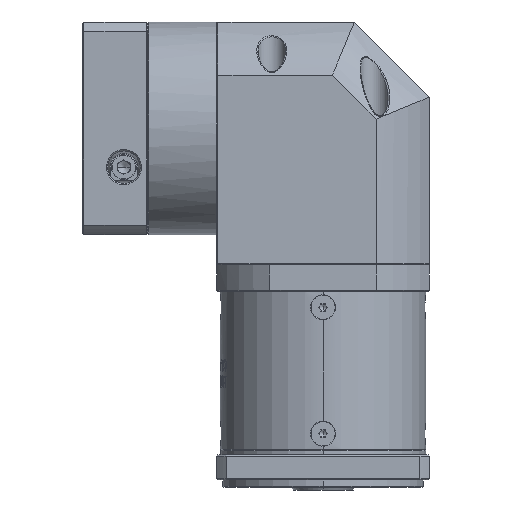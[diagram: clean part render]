
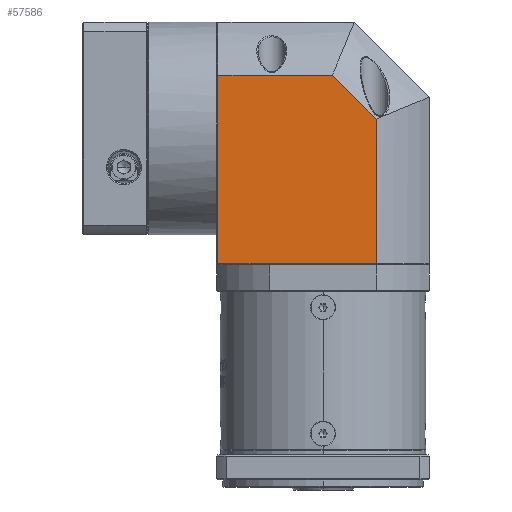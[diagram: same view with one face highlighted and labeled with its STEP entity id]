
A CAD part, left-side view. The second image highlights one B-rep face of the part: STEP entity #57586.
In plain terms, the highlighted planar face has unit normal (-1, 0, 0).
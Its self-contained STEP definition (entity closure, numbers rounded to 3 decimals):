
#1010 = ORIENTED_EDGE ( 'NONE', *, *, #21388, .T. ) ;
#3011 = DIRECTION ( 'NONE',  ( 0., -1., 0. ) ) ;
#3718 = PLANE ( 'NONE',  #119751 ) ;
#10248 = VECTOR ( 'NONE', #117422, 1000. ) ;
#10700 = VERTEX_POINT ( 'NONE', #96113 ) ;
#11187 = VERTEX_POINT ( 'NONE', #30959 ) ;
#11461 = CARTESIAN_POINT ( 'NONE',  ( -85.49, 74.778, 33.285 ) ) ;
#18128 = ORIENTED_EDGE ( 'NONE', *, *, #62317, .F. ) ;
#21388 = EDGE_CURVE ( 'NONE', #96062, #11187, #95706, .T. ) ;
#22497 = CARTESIAN_POINT ( 'NONE',  ( -85.49, 74.778, -41.928 ) ) ;
#24585 = VERTEX_POINT ( 'NONE', #11461 ) ;
#25268 = VECTOR ( 'NONE', #110694, 1000. ) ;
#30580 = VERTEX_POINT ( 'NONE', #105622 ) ;
#30959 = CARTESIAN_POINT ( 'NONE',  ( -85.49, 11.565, -41.928 ) ) ;
#33554 = CARTESIAN_POINT ( 'NONE',  ( -85.49, 75.278, 33.285 ) ) ;
#35067 = CARTESIAN_POINT ( 'NONE',  ( -85.49, 29.095, 33.285 ) ) ;
#38963 = ORIENTED_EDGE ( 'NONE', *, *, #66249, .F. ) ;
#42537 = DIRECTION ( 'NONE',  ( 0., 0., -1. ) ) ;
#46254 = LINE ( 'NONE', #33554, #70711 ) ;
#54048 = CARTESIAN_POINT ( 'NONE',  ( -85.49, 75.278, -41.928 ) ) ;
#54524 = VECTOR ( 'NONE', #61422, 1000. ) ;
#57586 = ADVANCED_FACE ( 'NONE', ( #60636 ), #3718, .F. ) ;
#58984 = ORIENTED_EDGE ( 'NONE', *, *, #101353, .F. ) ;
#60636 = FACE_OUTER_BOUND ( 'NONE', #123624, .T. ) ;
#61422 = DIRECTION ( 'NONE',  ( 0., 0., 1. ) ) ;
#61586 = LINE ( 'NONE', #106887, #123713 ) ;
#62317 = EDGE_CURVE ( 'NONE', #30580, #11187, #61586, .T. ) ;
#65360 = DIRECTION ( 'NONE',  ( 1., 0., 0. ) ) ;
#66249 = EDGE_CURVE ( 'NONE', #10700, #30580, #106763, .T. ) ;
#70711 = VECTOR ( 'NONE', #3011, 1000. ) ;
#83374 = CARTESIAN_POINT ( 'NONE',  ( -85.49, 74.778, 54.572 ) ) ;
#86005 = DIRECTION ( 'NONE',  ( 0., 1., 0. ) ) ;
#90008 = ORIENTED_EDGE ( 'NONE', *, *, #114288, .F. ) ;
#93806 = LINE ( 'NONE', #83374, #54524 ) ;
#95706 = LINE ( 'NONE', #54048, #25268 ) ;
#96062 = VERTEX_POINT ( 'NONE', #22497 ) ;
#96113 = CARTESIAN_POINT ( 'NONE',  ( -85.49, 29.095, 33.285 ) ) ;
#96556 = CARTESIAN_POINT ( 'NONE',  ( -85.49, 75.278, 54.572 ) ) ;
#101353 = EDGE_CURVE ( 'NONE', #24585, #10700, #46254, .T. ) ;
#105622 = CARTESIAN_POINT ( 'NONE',  ( -85.49, 11.565, 15.755 ) ) ;
#106763 = LINE ( 'NONE', #35067, #10248 ) ;
#106887 = CARTESIAN_POINT ( 'NONE',  ( -85.49, 11.565, 58.072 ) ) ;
#110694 = DIRECTION ( 'NONE',  ( 0., -1., 0. ) ) ;
#114288 = EDGE_CURVE ( 'NONE', #96062, #24585, #93806, .T. ) ;
#117422 = DIRECTION ( 'NONE',  ( 0., -0.707, -0.707 ) ) ;
#119751 = AXIS2_PLACEMENT_3D ( 'NONE', #96556, #65360, #86005 ) ;
#123624 = EDGE_LOOP ( 'NONE', ( #1010, #18128, #38963, #58984, #90008 ) ) ;
#123713 = VECTOR ( 'NONE', #42537, 1000. ) ;
